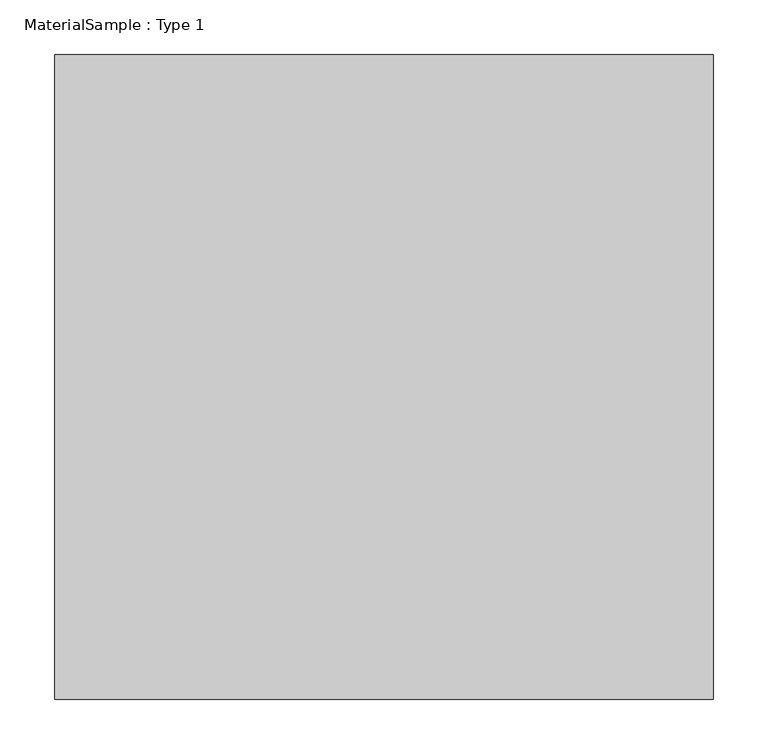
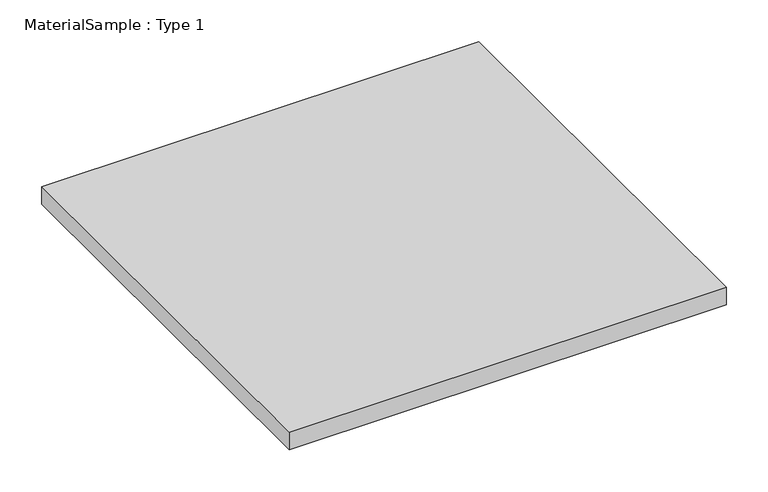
"""IFC4 building model written with IfcOpenShell, lengths in millimetres: proxy geometry, MaterialSample : Type 1."""

from ifc_helpers import new_model, si_unit, origin, origin_with_axes, place, context, project, spatial, polyline, outline, extrude, source, transform, mapped, element, save


def materialsample_type_1_bd7977d1(model_context):
    return source(origin(), model_context, "Body", "SweptSolid", [
        extrude(outline(polyline([(609.6, 20.0569203), (7.6974335, 20.0569203), (7.6974335, 609.6), (609.6, 609.6), (609.6, 20.0569203)])), origin_with_axes(), (0.0, 0.0, 1.0), 25.4),
    ])


if __name__ == "__main__":
    model = new_model("IFC4")
    model_context = context("Model", 3, world=origin())
    ifc_project = project(units=[si_unit("LENGTHUNIT", "METRE", prefix="MILLI")], contexts=[model_context])
    site = spatial("IfcSite", under=ifc_project)
    building = spatial("IfcBuilding", under=site)
    placement = place(None, origin())
    materialsample_type_1_shape = materialsample_type_1_bd7977d1(model_context)
    element("IfcBuildingElementProxy", 1, Name="MaterialSample : Type 1", ObjectType="MaterialSample : Type 1", at=placement, inside=building, context=model_context, shape_type="MappedRepresentation", body=[
        mapped(materialsample_type_1_shape, transform((0.0, 0.0, 0.0), x_axis=(1.0, 0.0, 0.0), y_axis=(0.0, 1.0, 0.0), z_axis=(0.0, 0.0, 1.0))),
    ])
    save(model, "model.ifc")
